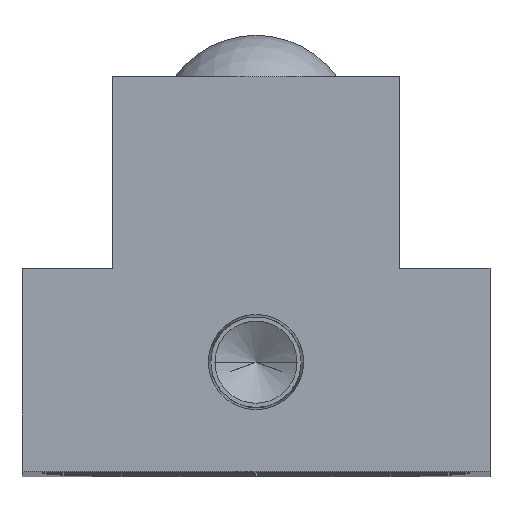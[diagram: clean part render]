
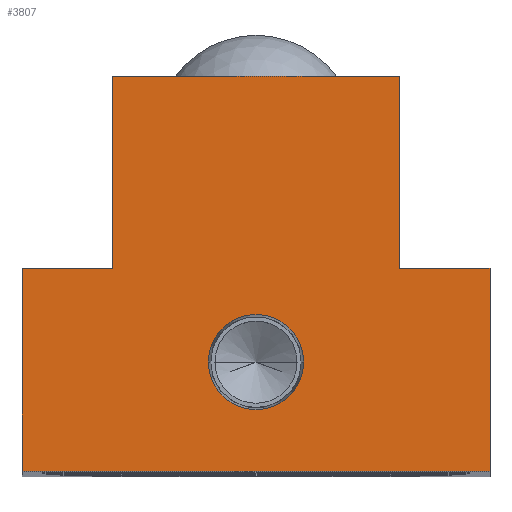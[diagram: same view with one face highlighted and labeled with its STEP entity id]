
A CAD part, top view. The second image highlights one B-rep face of the part: STEP entity #3807.
In plain terms, the highlighted planar face has unit normal (0, 0, 1).
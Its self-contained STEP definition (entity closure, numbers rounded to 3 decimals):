
#168 = EDGE_CURVE ( 'NONE', #2567, #4213, #2245, .T. ) ;
#173 = EDGE_CURVE ( 'NONE', #1110, #5136, #2125, .T. ) ;
#258 = DIRECTION ( 'NONE',  ( 1., 0., 0. ) ) ;
#264 = CARTESIAN_POINT ( 'NONE',  ( 13.75, 38., 0. ) ) ;
#313 = ORIENTED_EDGE ( 'NONE', *, *, #1222, .T. ) ;
#393 = ORIENTED_EDGE ( 'NONE', *, *, #1649, .T. ) ;
#422 = VERTEX_POINT ( 'NONE', #2675 ) ;
#547 = DIRECTION ( 'NONE',  ( 0., 0., -1. ) ) ;
#578 = CARTESIAN_POINT ( 'NONE',  ( 22.5, 0., 0. ) ) ;
#645 = DIRECTION ( 'NONE',  ( -1., 0., 0. ) ) ;
#666 = VECTOR ( 'NONE', #3593, 1000. ) ;
#726 = DIRECTION ( 'NONE',  ( 1., 0., 0. ) ) ;
#811 = AXIS2_PLACEMENT_3D ( 'NONE', #849, #3670, #1279 ) ;
#826 = EDGE_CURVE ( 'NONE', #4213, #1701, #2856, .T. ) ;
#849 = CARTESIAN_POINT ( 'NONE',  ( 0., 10.5, 0. ) ) ;
#947 = VERTEX_POINT ( 'NONE', #3114 ) ;
#959 = EDGE_CURVE ( 'NONE', #1881, #2662, #984, .T. ) ;
#984 = CIRCLE ( 'NONE', #3101, 4.574 ) ;
#986 = CARTESIAN_POINT ( 'NONE',  ( 4.574, 10.5, 0. ) ) ;
#999 = PLANE ( 'NONE',  #4905 ) ;
#1110 = VERTEX_POINT ( 'NONE', #3686 ) ;
#1156 = ORIENTED_EDGE ( 'NONE', *, *, #5041, .F. ) ;
#1202 = CARTESIAN_POINT ( 'NONE',  ( 22.5, 19.5, 0. ) ) ;
#1222 = EDGE_CURVE ( 'NONE', #5136, #3908, #2171, .T. ) ;
#1279 = DIRECTION ( 'NONE',  ( 1., 0., 0. ) ) ;
#1284 = VECTOR ( 'NONE', #645, 1000. ) ;
#1429 = LINE ( 'NONE', #264, #4372 ) ;
#1575 = DIRECTION ( 'NONE',  ( 0., 1., 0. ) ) ;
#1581 = DIRECTION ( 'NONE',  ( -1., 0., 0. ) ) ;
#1619 = ORIENTED_EDGE ( 'NONE', *, *, #826, .T. ) ;
#1649 = EDGE_CURVE ( 'NONE', #422, #2567, #4491, .T. ) ;
#1701 = VERTEX_POINT ( 'NONE', #2993 ) ;
#1727 = DIRECTION ( 'NONE',  ( 0., -1., 0. ) ) ;
#1881 = VERTEX_POINT ( 'NONE', #986 ) ;
#1920 = CARTESIAN_POINT ( 'NONE',  ( -13.75, 19.5, 0. ) ) ;
#2012 = CARTESIAN_POINT ( 'NONE',  ( -13.75, 38., 0. ) ) ;
#2052 = LINE ( 'NONE', #2825, #3301 ) ;
#2070 = VECTOR ( 'NONE', #2209, 1000. ) ;
#2125 = LINE ( 'NONE', #2012, #5160 ) ;
#2171 = LINE ( 'NONE', #4951, #2070 ) ;
#2209 = DIRECTION ( 'NONE',  ( 0., -1., 0. ) ) ;
#2211 = ORIENTED_EDGE ( 'NONE', *, *, #2720, .T. ) ;
#2245 = LINE ( 'NONE', #3144, #4187 ) ;
#2431 = VECTOR ( 'NONE', #1727, 1000. ) ;
#2541 = CARTESIAN_POINT ( 'NONE',  ( -13.75, 38., 0. ) ) ;
#2567 = VERTEX_POINT ( 'NONE', #3525 ) ;
#2604 = EDGE_CURVE ( 'NONE', #947, #1110, #1429, .T. ) ;
#2662 = VERTEX_POINT ( 'NONE', #3560 ) ;
#2675 = CARTESIAN_POINT ( 'NONE',  ( -22.5, 19.5, 0. ) ) ;
#2717 = ORIENTED_EDGE ( 'NONE', *, *, #4744, .T. ) ;
#2720 = EDGE_CURVE ( 'NONE', #3908, #422, #2052, .T. ) ;
#2765 = DIRECTION ( 'NONE',  ( 0., 0., 1. ) ) ;
#2825 = CARTESIAN_POINT ( 'NONE',  ( -13.75, 19.5, 0. ) ) ;
#2856 = LINE ( 'NONE', #1202, #666 ) ;
#2879 = ORIENTED_EDGE ( 'NONE', *, *, #2604, .T. ) ;
#2993 = CARTESIAN_POINT ( 'NONE',  ( 22.5, 19.5, 0. ) ) ;
#3101 = AXIS2_PLACEMENT_3D ( 'NONE', #5144, #2765, #258 ) ;
#3114 = CARTESIAN_POINT ( 'NONE',  ( 13.75, 19.5, 0. ) ) ;
#3144 = CARTESIAN_POINT ( 'NONE',  ( 22.5, 0., 0. ) ) ;
#3199 = FACE_BOUND ( 'NONE', #3657, .T. ) ;
#3301 = VECTOR ( 'NONE', #3997, 1000. ) ;
#3412 = LINE ( 'NONE', #3468, #1284 ) ;
#3468 = CARTESIAN_POINT ( 'NONE',  ( 22.5, 19.5, 0. ) ) ;
#3525 = CARTESIAN_POINT ( 'NONE',  ( -22.5, 0., 0. ) ) ;
#3533 = EDGE_LOOP ( 'NONE', ( #1619, #2717, #2879, #3649, #313, #2211, #393, #4382 ) ) ;
#3560 = CARTESIAN_POINT ( 'NONE',  ( -4.574, 10.5, 0. ) ) ;
#3593 = DIRECTION ( 'NONE',  ( 0., 1., 0. ) ) ;
#3649 = ORIENTED_EDGE ( 'NONE', *, *, #173, .T. ) ;
#3657 = EDGE_LOOP ( 'NONE', ( #4924, #1156 ) ) ;
#3670 = DIRECTION ( 'NONE',  ( 0., 0., 1. ) ) ;
#3686 = CARTESIAN_POINT ( 'NONE',  ( 13.75, 38., 0. ) ) ;
#3801 = CARTESIAN_POINT ( 'NONE',  ( 0., 0., 0. ) ) ;
#3807 = ADVANCED_FACE ( 'NONE', ( #3199, #4225 ), #999, .F. ) ;
#3908 = VERTEX_POINT ( 'NONE', #1920 ) ;
#3997 = DIRECTION ( 'NONE',  ( -1., 0., 0. ) ) ;
#4187 = VECTOR ( 'NONE', #726, 1000. ) ;
#4205 = DIRECTION ( 'NONE',  ( -1., 0., 0. ) ) ;
#4213 = VERTEX_POINT ( 'NONE', #578 ) ;
#4225 = FACE_OUTER_BOUND ( 'NONE', #3533, .T. ) ;
#4372 = VECTOR ( 'NONE', #1575, 1000. ) ;
#4382 = ORIENTED_EDGE ( 'NONE', *, *, #168, .T. ) ;
#4491 = LINE ( 'NONE', #4494, #2431 ) ;
#4494 = CARTESIAN_POINT ( 'NONE',  ( -22.5, 19.5, 0. ) ) ;
#4744 = EDGE_CURVE ( 'NONE', #1701, #947, #3412, .T. ) ;
#4854 = CIRCLE ( 'NONE', #811, 4.574 ) ;
#4905 = AXIS2_PLACEMENT_3D ( 'NONE', #3801, #547, #4205 ) ;
#4924 = ORIENTED_EDGE ( 'NONE', *, *, #959, .F. ) ;
#4951 = CARTESIAN_POINT ( 'NONE',  ( -13.75, 38., 0. ) ) ;
#5041 = EDGE_CURVE ( 'NONE', #2662, #1881, #4854, .T. ) ;
#5136 = VERTEX_POINT ( 'NONE', #2541 ) ;
#5144 = CARTESIAN_POINT ( 'NONE',  ( 0., 10.5, 0. ) ) ;
#5160 = VECTOR ( 'NONE', #1581, 1000. ) ;
